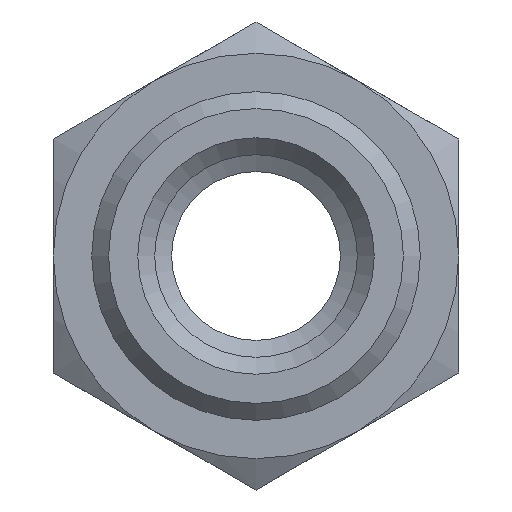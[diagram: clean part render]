
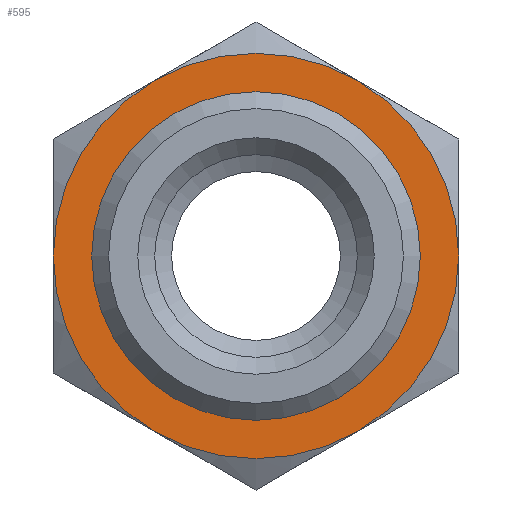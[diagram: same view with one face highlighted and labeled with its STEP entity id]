
A CAD part, front view. The second image highlights one B-rep face of the part: STEP entity #595.
In plain terms, the highlighted planar face has unit normal (0, -1, 0).
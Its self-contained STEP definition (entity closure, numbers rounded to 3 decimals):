
#51=FACE_BOUND('',#139,.T.);
#62=PLANE('',#697);
#98=FACE_OUTER_BOUND('',#138,.T.);
#138=EDGE_LOOP('',(#535,#536,#537,#538,#539,#540));
#139=EDGE_LOOP('',(#541,#542));
#184=CIRCLE('',#629,4.864);
#185=CIRCLE('',#630,4.864);
#186=CIRCLE('',#632,6.);
#187=CIRCLE('',#634,6.);
#188=CIRCLE('',#636,6.);
#189=CIRCLE('',#638,6.);
#190=CIRCLE('',#640,6.);
#191=CIRCLE('',#642,6.);
#230=VERTEX_POINT('',#907);
#231=VERTEX_POINT('',#909);
#233=VERTEX_POINT('',#914);
#234=VERTEX_POINT('',#918);
#236=VERTEX_POINT('',#925);
#238=VERTEX_POINT('',#935);
#240=VERTEX_POINT('',#948);
#242=VERTEX_POINT('',#958);
#291=EDGE_CURVE('',#230,#231,#184,.T.);
#292=EDGE_CURVE('',#231,#230,#185,.T.);
#295=EDGE_CURVE('',#233,#234,#186,.T.);
#298=EDGE_CURVE('',#236,#233,#187,.T.);
#301=EDGE_CURVE('',#238,#236,#188,.T.);
#303=EDGE_CURVE('',#240,#238,#189,.T.);
#306=EDGE_CURVE('',#242,#240,#190,.T.);
#309=EDGE_CURVE('',#234,#242,#191,.T.);
#535=ORIENTED_EDGE('',*,*,#309,.T.);
#536=ORIENTED_EDGE('',*,*,#306,.T.);
#537=ORIENTED_EDGE('',*,*,#303,.T.);
#538=ORIENTED_EDGE('',*,*,#301,.T.);
#539=ORIENTED_EDGE('',*,*,#298,.T.);
#540=ORIENTED_EDGE('',*,*,#295,.T.);
#541=ORIENTED_EDGE('',*,*,#292,.F.);
#542=ORIENTED_EDGE('',*,*,#291,.F.);
#595=ADVANCED_FACE('',(#98,#51),#62,.T.);
#629=AXIS2_PLACEMENT_3D('',#910,#730,#731);
#630=AXIS2_PLACEMENT_3D('',#911,#732,#733);
#632=AXIS2_PLACEMENT_3D('',#922,#736,#737);
#634=AXIS2_PLACEMENT_3D('',#932,#740,#741);
#636=AXIS2_PLACEMENT_3D('',#942,#744,#745);
#638=AXIS2_PLACEMENT_3D('',#949,#748,#749);
#640=AXIS2_PLACEMENT_3D('',#959,#752,#753);
#642=AXIS2_PLACEMENT_3D('',#968,#756,#757);
#697=AXIS2_PLACEMENT_3D('',#1111,#880,#881);
#730=DIRECTION('center_axis',(0.,-1.,0.));
#731=DIRECTION('ref_axis',(1.,0.,0.));
#732=DIRECTION('center_axis',(0.,-1.,0.));
#733=DIRECTION('ref_axis',(1.,0.,0.));
#736=DIRECTION('center_axis',(0.,-1.,0.));
#737=DIRECTION('ref_axis',(1.,0.,0.));
#740=DIRECTION('center_axis',(0.,-1.,0.));
#741=DIRECTION('ref_axis',(1.,0.,0.));
#744=DIRECTION('center_axis',(0.,-1.,0.));
#745=DIRECTION('ref_axis',(1.,0.,0.));
#748=DIRECTION('center_axis',(0.,-1.,0.));
#749=DIRECTION('ref_axis',(1.,0.,0.));
#752=DIRECTION('center_axis',(0.,-1.,0.));
#753=DIRECTION('ref_axis',(1.,0.,0.));
#756=DIRECTION('center_axis',(0.,-1.,0.));
#757=DIRECTION('ref_axis',(1.,0.,0.));
#880=DIRECTION('center_axis',(0.,-1.,0.));
#881=DIRECTION('ref_axis',(0.,0.,-1.));
#907=CARTESIAN_POINT('',(-4.864,6.5,0.));
#909=CARTESIAN_POINT('',(4.864,6.5,0.));
#910=CARTESIAN_POINT('Origin',(0.,6.5,0.));
#911=CARTESIAN_POINT('Origin',(0.,6.5,0.));
#914=CARTESIAN_POINT('',(6.,6.5,0.));
#918=CARTESIAN_POINT('',(3.,6.5,5.196));
#922=CARTESIAN_POINT('Origin',(0.,6.5,0.));
#925=CARTESIAN_POINT('',(3.,6.5,-5.196));
#932=CARTESIAN_POINT('Origin',(0.,6.5,0.));
#935=CARTESIAN_POINT('',(-3.,6.5,-5.196));
#942=CARTESIAN_POINT('Origin',(0.,6.5,0.));
#948=CARTESIAN_POINT('',(-6.,6.5,0.));
#949=CARTESIAN_POINT('Origin',(0.,6.5,0.));
#958=CARTESIAN_POINT('',(-3.,6.5,5.196));
#959=CARTESIAN_POINT('Origin',(0.,6.5,0.));
#968=CARTESIAN_POINT('Origin',(0.,6.5,0.));
#1111=CARTESIAN_POINT('Origin',(4.864,6.5,0.));
